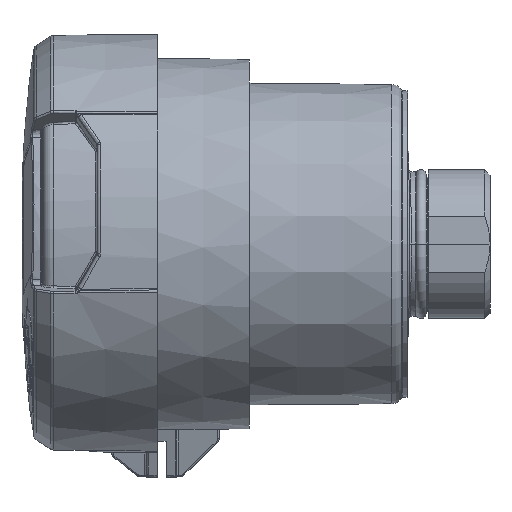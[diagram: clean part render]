
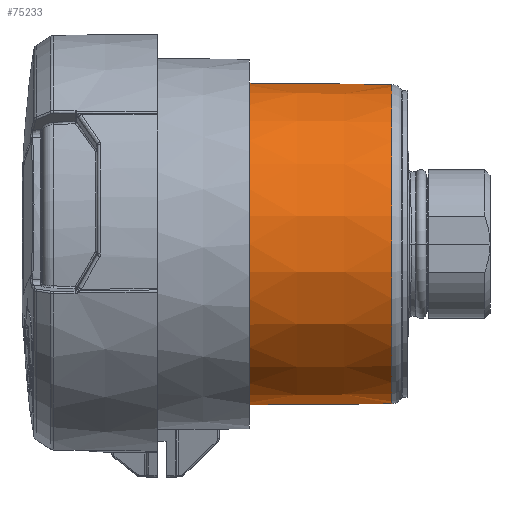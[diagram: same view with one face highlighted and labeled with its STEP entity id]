
A CAD part, left-side view. The second image highlights one B-rep face of the part: STEP entity #75233.
In plain terms, the highlighted conical face has half-angle 0.5 degrees and reference radius 45.224 mm.
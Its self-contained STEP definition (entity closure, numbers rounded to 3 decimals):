
#21942=CARTESIAN_POINT('',(0.,-62.,0.));
#21943=DIRECTION('',(0.,-1.,0.));
#21944=DIRECTION('',(0.,0.,1.));
#21945=AXIS2_PLACEMENT_3D('',#21942,#21943,#21944);
#21966=DIRECTION('',(0.,-1.,-0.009));
#21967=VECTOR('',#21966,40.212);
#21968=CARTESIAN_POINT('',(0.,-62.,45.399));
#21969=LINE('',#21968,#21967);
#21973=CARTESIAN_POINT('',(0.,-102.21,0.));
#21974=DIRECTION('',(0.,-1.,0.));
#21975=DIRECTION('',(0.,0.,1.));
#21976=AXIS2_PLACEMENT_3D('',#21973,#21974,#21975);
#21981=DIRECTION('',(0.,1.,-0.009));
#21982=VECTOR('',#21981,40.212);
#21983=CARTESIAN_POINT('',(0.,-102.21,
-45.048));
#21984=LINE('',#21983,#21982);
#38452=CARTESIAN_POINT('',(0.,-102.21,-45.048));
#38453=CARTESIAN_POINT('',(0.,-102.21,45.048));
#38454=VERTEX_POINT('',#38452);
#38455=VERTEX_POINT('',#38453);
#40410=CARTESIAN_POINT('',(0.,-62.,-45.399));
#40411=VERTEX_POINT('',#40410);
#40412=CARTESIAN_POINT('',(0.,-62.,45.399));
#40413=VERTEX_POINT('',#40412);
#75222=CARTESIAN_POINT('',(0.,-82.105,0.));
#75223=DIRECTION('',(0.,1.,0.));
#75224=DIRECTION('',(0.,0.,-1.));
#75225=AXIS2_PLACEMENT_3D('',#75222,#75223,#75224);
#75226=CONICAL_SURFACE('',#75225,45.224,0.5);
#75227=ORIENTED_EDGE('',*,*,#75217,.F.);
#75228=ORIENTED_EDGE('',*,*,#75200,.T.);
#75229=ORIENTED_EDGE('',*,*,#75157,.T.);
#75230=ORIENTED_EDGE('',*,*,#75197,.T.);
#75231=EDGE_LOOP('',(#75227,#75228,#75229,#75230));
#75232=FACE_OUTER_BOUND('',#75231,.F.);
#21946=CIRCLE('',#21945,45.399);
#21977=CIRCLE('',#21976,45.048);
#75157=EDGE_CURVE('',#38455,#38454,#21977,.T.);
#75197=EDGE_CURVE('',#38454,#40411,#21984,.T.);
#75200=EDGE_CURVE('',#40413,#38455,#21969,.T.);
#75217=EDGE_CURVE('',#40413,#40411,#21946,.T.);
#75233=ADVANCED_FACE('',(#75232),#75226,.T.);
